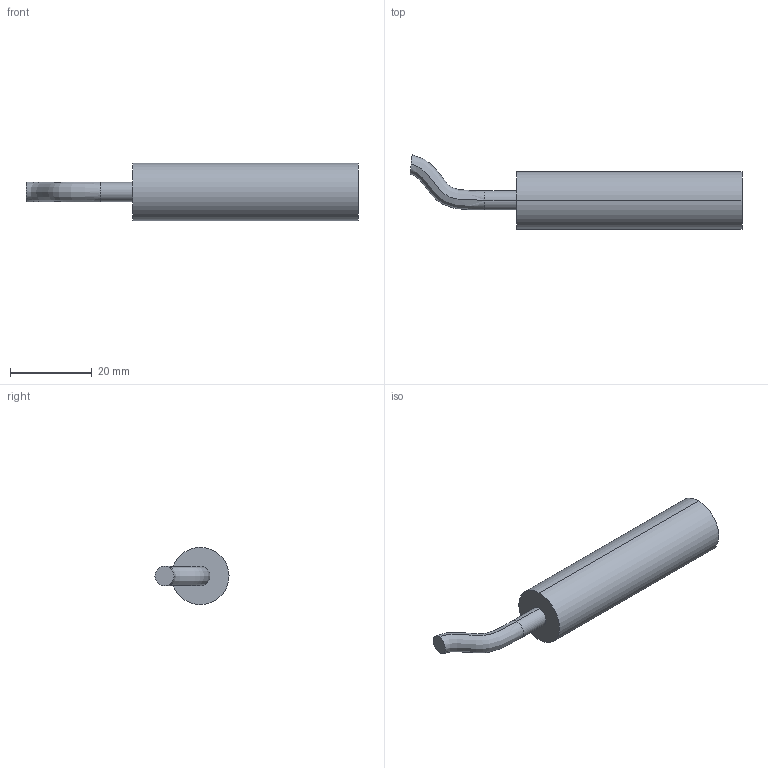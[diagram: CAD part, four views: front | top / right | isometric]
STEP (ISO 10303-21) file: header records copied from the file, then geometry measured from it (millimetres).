
FILE_DESCRIPTION (( 'STEP AP203' ), '1' );
FILE_NAME ('LT1S.STEP', '2021-06-09T11:14:41', ( '' ), ( '' ), 'SwSTEP 2.0', 'SolidWorks 2019', '' );
FILE_SCHEMA (( 'CONFIG_CONTROL_DESIGN' ));
Length unit declared in the file: millimetre
Products named in the file (2): LT1S; 26508-10 - Involucro Ø14 - PER ASSIEME_Default<A macchina>
Assembly tree (1 placements, depth 2):
  LT1S
    26508-10 - Involucro Ø14 - PER ASSIEME_Default<A macchina>
Bounding box: 80.98 x 18.08 x 14 mm (x, y, z)
Volume: 4536.8 mm3; surface area: 4951 mm2
Topology: 1 solids, 1 shells, 18 faces, 34 edges, 22 vertices
Faces by surface type: cylinder 10, plane 6, bspline 2
Entity records: 964 total; most frequent: CARTESIAN_POINT 394, DIRECTION 94, ORIENTED_EDGE 68, AXIS2_PLACEMENT_3D 42, EDGE_CURVE 34, CIRCLE 22, EDGE_LOOP 22, VERTEX_POINT 22
